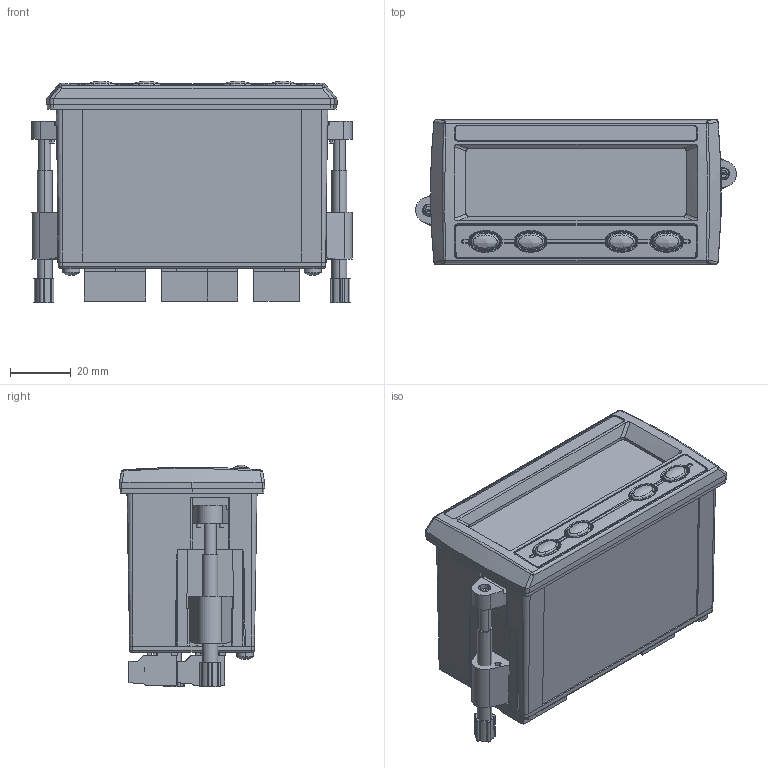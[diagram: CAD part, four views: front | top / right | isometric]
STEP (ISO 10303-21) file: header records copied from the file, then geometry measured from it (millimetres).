
FILE_DESCRIPTION (( 'STEP AP214' ), '1' );
FILE_NAME ('XX7E.STEP', '2019-05-22T16:38:43', ( '' ), ( '' ), 'SwSTEP 2.0', 'SolidWorks 2018', '' );
FILE_SCHEMA (( 'AUTOMOTIVE_DESIGN' ));
Length unit declared in the file: millimetre
Products named in the file (45): Panel Clamp Screw; fmcr tapping screws-scrape point a gb; 96 x 48 Gasket; Panel Clamp Body; User Library-Terminal header 1way; fmcr tapping screws-scrape point a gb_ST2.9X16-N Self Tapper; 96 x 48 Label; User Library-Terminal header 2way; 96 x 48 Keypad; Keypad Connector; Keypad Connector_96 x 48; 96 x 48 Glass; 96 x 48 Panel Case; XX7E; User Library-Terminal socket 3way; User Library-Terminal header 2way___ _________; User Library-Terminal socket 2way; User Library-Terminal socket 4way; User Library-Terminal header 1way___ _________; 96 x 48 Rear Lid; Clamp Screw Foot; 96 x 48 Rear Lid_As Moulded; Panel Clamp Assembly
Assembly tree (26 placements, depth 3):
  fmcr tapping screws-scrape point a gb
  96 x 48 Gasket
  fmcr tapping screws-scrape point a gb
  User Library-Terminal header 1way
  96 x 48 Label
Bounding box: 105.86 x 48.01 x 73.23 mm (x, y, z)
Volume: 88650.1 mm3; surface area: 75027.5 mm2
Topology: 52 solids, 52 shells, 2698 faces, 6679 edges, 4176 vertices
Faces by surface type: plane 1442, cylinder 680, bspline 244, torus 212, cone 80, sphere 40
Entity records: 64417 total; most frequent: CARTESIAN_POINT 27215, ORIENTED_EDGE 7694, DIRECTION 6782, EDGE_CURVE 3847, VERTEX_POINT 2449, LINE 2316, VECTOR 2316, AXIS2_PLACEMENT_3D 2233
